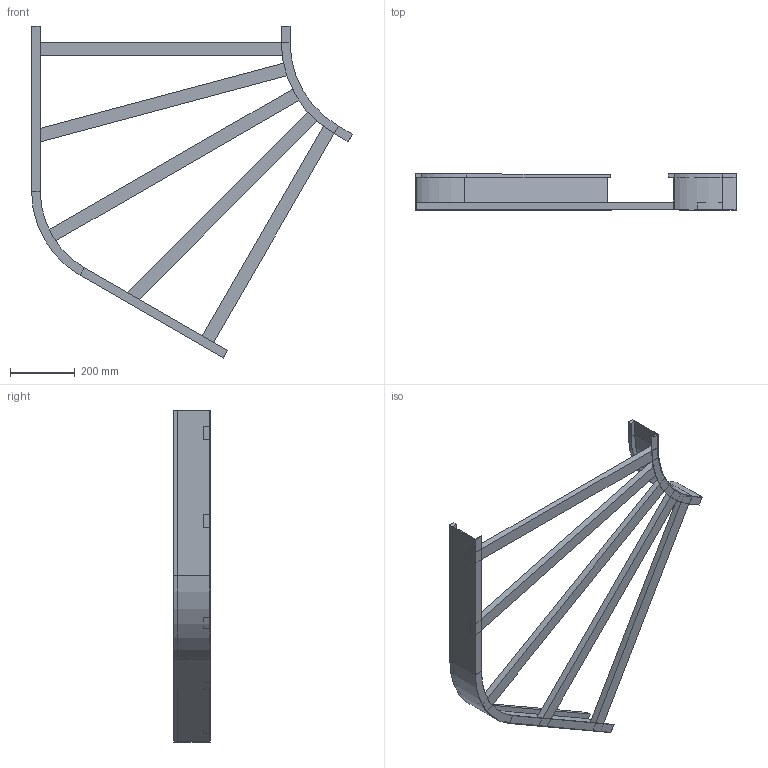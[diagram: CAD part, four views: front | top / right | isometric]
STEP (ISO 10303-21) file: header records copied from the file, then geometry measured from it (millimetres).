
FILE_DESCRIPTION (( 'STEP AP214' ), '1' );
FILE_NAME ('B2_13B3J800.step', '2025-02-21T15:20:18', ( '' ), ( '' ), 'SwSTEP 2.0', 'SolidWorks 2023', '' );
FILE_SCHEMA (( 'AUTOMOTIVE_DESIGN' ));
Length unit declared in the file: millimetre
Products named in the file (6): TRAVERSINO_L918; B2_LONGH.ESTERNO 60°_H112.5_R300+800; TRAVERSINO_800; B2_13B3J800; TRAVERSINO_900_SCANTONATO; B2_LONGH.INTERNO 60°_H112.5_R300
Assembly tree (7 placements, depth 2):
  B2_13B3J800
    B2_LONGH.INTERNO 60°_H112.5_R300
    B2_LONGH.ESTERNO 60°_H112.5_R300+800
    TRAVERSINO_800  x2
    TRAVERSINO_900_SCANTONATO  x2
    TRAVERSINO_L918
Bounding box: 993.3 x 112.5 x 1027.63 mm (x, y, z)
Volume: 4204830.9 mm3; surface area: 1060824.2 mm2
Topology: 7 solids, 7 shells, 82 faces, 172 edges, 104 vertices
Faces by surface type: plane 74, cylinder 8
Entity records: 2015 total; most frequent: DIRECTION 324, CARTESIAN_POINT 316, ORIENTED_EDGE 296, EDGE_CURVE 148, LINE 132, VECTOR 132, AXIS2_PLACEMENT_3D 96, VERTEX_POINT 88
